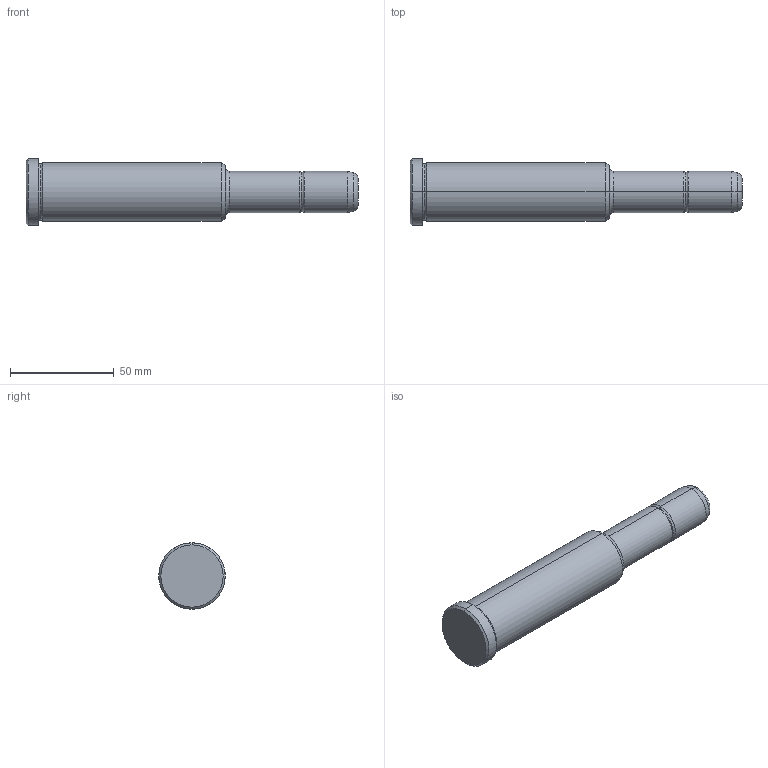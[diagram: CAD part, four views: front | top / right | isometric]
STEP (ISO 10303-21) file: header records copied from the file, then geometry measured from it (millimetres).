
FILE_DESCRIPTION(('CATIA V5 STEP Exchange'),'2;1');
FILE_NAME('C:\Users\Utente\Desktop\IO LAVORO\3D X SITO CF\X SITO\PLASTICA\351\351-20X96X160.stp','2021-08-27T13:03:14+00:00',('none'),('none'),'CATIA Version 5 Release 20 GA (IN-10)','CATIA V5 STEP AP203','none');
FILE_SCHEMA(('CONFIG_CONTROL_DESIGN'));
Length unit declared in the file: millimetre
Products named in the file (1): 351-20X96X160
Bounding box: 160 x 32 x 32 mm (x, y, z)
Volume: 79900.2 mm3; surface area: 13868.6 mm2
Topology: 1 solids, 1 shells, 30 faces, 86 edges, 60 vertices
Faces by surface type: torus 12, cylinder 8, cone 6, plane 4
Entity records: 1112 total; most frequent: CARTESIAN_POINT 289, ORIENTED_EDGE 172, DIRECTION 138, AXIS2_PLACEMENT_3D 95, EDGE_CURVE 86, CIRCLE 64, VERTEX_POINT 60, EDGE_LOOP 32
